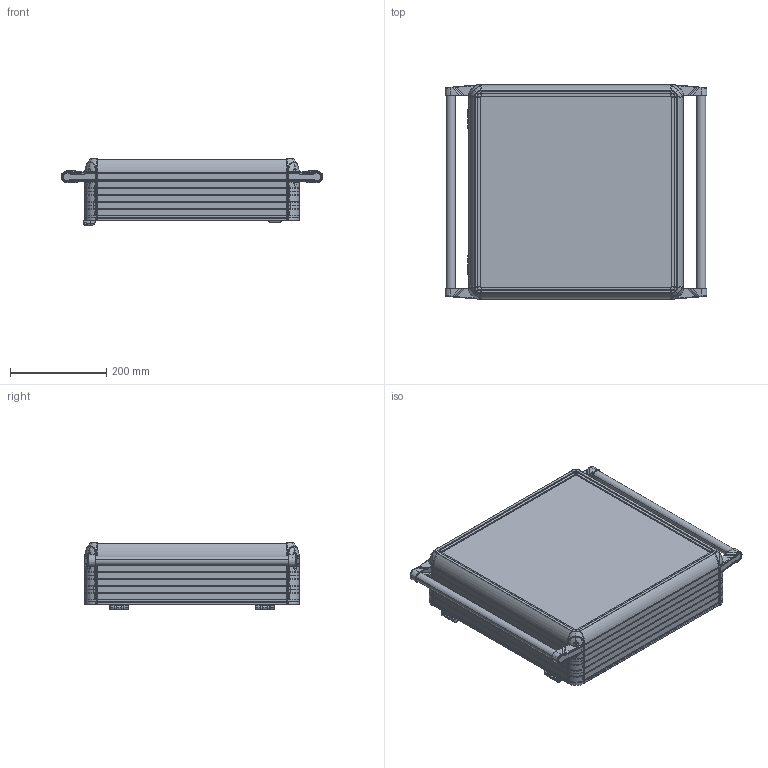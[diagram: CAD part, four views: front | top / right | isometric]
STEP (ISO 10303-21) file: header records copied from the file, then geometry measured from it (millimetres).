
FILE_DESCRIPTION (( 'STEP AP214' ), '1' );
FILE_NAME ('1200-0208.STEP', '2022-09-01T08:06:25', ( '' ), ( '' ), 'SwSTEP 2.0', 'SolidWorks 2022', '' );
FILE_SCHEMA (( 'AUTOMOTIVE_DESIGN' ));
Length unit declared in the file: millimetre
Products named in the file (7): ECO1200-0100(SAÐ); ARKA_KAPAK_400X400; 1200-0208; boru_425; HPECO-120-001-295_395; 400X400; ECO1200-0100(SOL)
Assembly tree (12 placements, depth 2):
  1200-0208
    400X400
    ARKA_KAPAK_400X400
    HPECO-120-001-295_395  x4
    boru_425  x2
    ECO1200-0100(SAÐ)  x2
    ECO1200-0100(SOL)  x2
Bounding box: 544.62 x 447 x 139.15 mm (x, y, z)
Volume: 4156603.8 mm3; surface area: 1511259.6 mm2
Topology: 20 solids, 74 shells, 6953 faces, 18774 edges, 11682 vertices
Faces by surface type: plane 2745, cylinder 1840, bspline 1380, cone 598, torus 344, sphere 46
Entity records: 211013 total; most frequent: CARTESIAN_POINT 57282, ORIENTED_EDGE 24408, DIRECTION 19920, EDGE_CURVE 12204, VERTEX_POINT 7600, AXIS2_PLACEMENT_3D 7238, VECTOR 5444, LINE 5444
